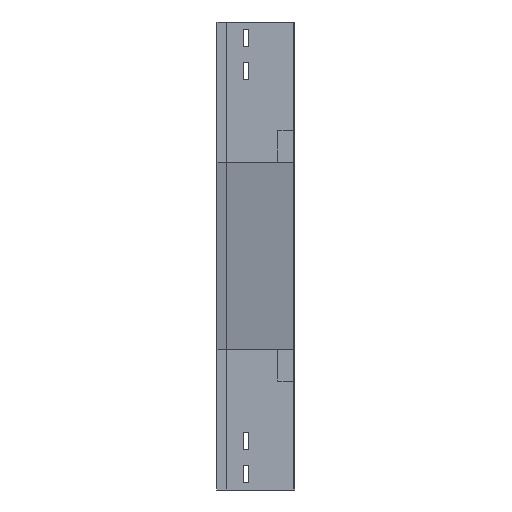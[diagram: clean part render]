
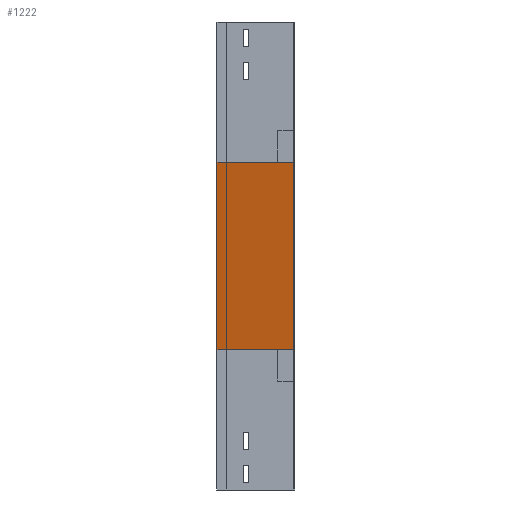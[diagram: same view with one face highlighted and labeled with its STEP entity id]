
A CAD part, left-side view. The second image highlights one B-rep face of the part: STEP entity #1222.
In plain terms, the highlighted planar face has unit normal (-0.979, 0, -0.204).
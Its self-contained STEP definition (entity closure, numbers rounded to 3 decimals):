
#202 = LINE ( 'NONE', #3894, #3749 ) ;
#289 = VERTEX_POINT ( 'NONE', #1003 ) ;
#367 = DIRECTION ( 'NONE',  ( 0.204, 0., -0.979 ) ) ;
#397 = ORIENTED_EDGE ( 'NONE', *, *, #610, .F. ) ;
#610 = EDGE_CURVE ( 'NONE', #2459, #289, #1780, .T. ) ;
#676 = FACE_OUTER_BOUND ( 'NONE', #3874, .T. ) ;
#716 = DIRECTION ( 'NONE',  ( 0.979, 0., 0.204 ) ) ;
#816 = CARTESIAN_POINT ( 'NONE',  ( 50., 0., -420. ) ) ;
#932 = PLANE ( 'NONE',  #1205 ) ;
#945 = LINE ( 'NONE', #3678, #2798 ) ;
#1003 = CARTESIAN_POINT ( 'NONE',  ( 0., 0., -180. ) ) ;
#1070 = VECTOR ( 'NONE', #2424, 1000. ) ;
#1137 = CARTESIAN_POINT ( 'NONE',  ( 50., 0., -420. ) ) ;
#1205 = AXIS2_PLACEMENT_3D ( 'NONE', #2536, #716, #367 ) ;
#1222 = ADVANCED_FACE ( 'NONE', ( #676 ), #932, .F. ) ;
#1290 = ORIENTED_EDGE ( 'NONE', *, *, #1968, .T. ) ;
#1540 = ORIENTED_EDGE ( 'NONE', *, *, #2637, .F. ) ;
#1578 = EDGE_CURVE ( 'NONE', #3479, #2450, #3909, .T. ) ;
#1700 = CARTESIAN_POINT ( 'NONE',  ( 50., 100., -420. ) ) ;
#1780 = LINE ( 'NONE', #2949, #1070 ) ;
#1810 = ORIENTED_EDGE ( 'NONE', *, *, #1578, .F. ) ;
#1968 = EDGE_CURVE ( 'NONE', #2459, #2450, #202, .T. ) ;
#2057 = DIRECTION ( 'NONE',  ( 0.204, 0., -0.979 ) ) ;
#2424 = DIRECTION ( 'NONE',  ( 0., -1., 0. ) ) ;
#2450 = VERTEX_POINT ( 'NONE', #1700 ) ;
#2459 = VERTEX_POINT ( 'NONE', #3346 ) ;
#2536 = CARTESIAN_POINT ( 'NONE',  ( 0., 0., -180. ) ) ;
#2637 = EDGE_CURVE ( 'NONE', #289, #3479, #945, .T. ) ;
#2658 = VECTOR ( 'NONE', #3608, 1000. ) ;
#2798 = VECTOR ( 'NONE', #3386, 1000. ) ;
#2949 = CARTESIAN_POINT ( 'NONE',  ( 0., 0., -180. ) ) ;
#3346 = CARTESIAN_POINT ( 'NONE',  ( 0., 100., -180. ) ) ;
#3386 = DIRECTION ( 'NONE',  ( 0.204, 0., -0.979 ) ) ;
#3479 = VERTEX_POINT ( 'NONE', #816 ) ;
#3608 = DIRECTION ( 'NONE',  ( 0., 1., 0. ) ) ;
#3678 = CARTESIAN_POINT ( 'NONE',  ( 0., 0., -180. ) ) ;
#3749 = VECTOR ( 'NONE', #2057, 1000. ) ;
#3874 = EDGE_LOOP ( 'NONE', ( #1540, #397, #1290, #1810 ) ) ;
#3894 = CARTESIAN_POINT ( 'NONE',  ( 0., 100., -180. ) ) ;
#3909 = LINE ( 'NONE', #1137, #2658 ) ;
